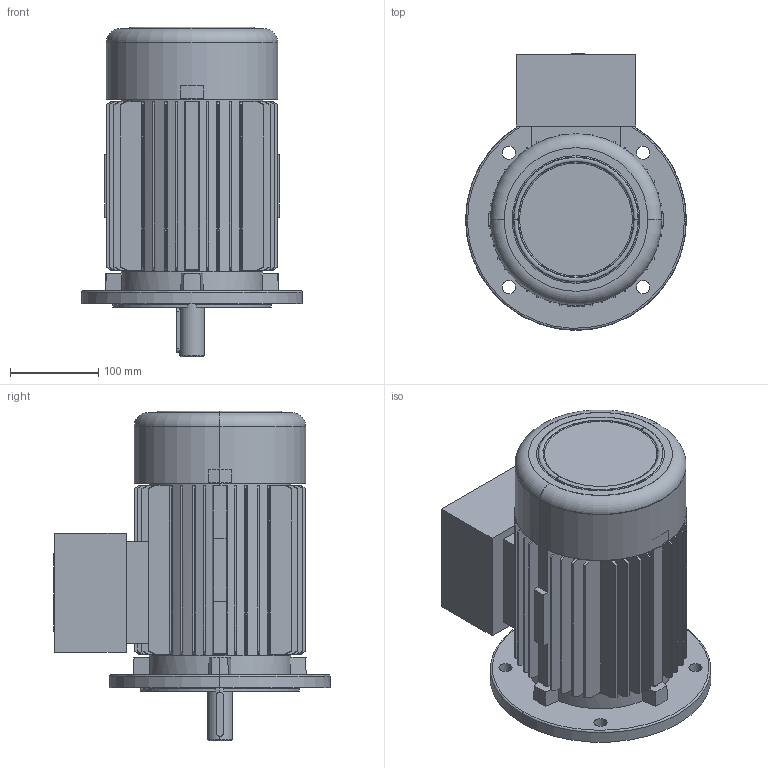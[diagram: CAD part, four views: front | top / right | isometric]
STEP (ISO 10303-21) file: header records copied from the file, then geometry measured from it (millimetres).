
FILE_DESCRIPTION (( 'STEP AP214' ), '1' );
FILE_NAME ('20.17500-B 5AT 100 B5 Exde STANDK.STEP', '2018-05-08T06:06:47', ( '' ), ( '' ), 'SwSTEP 2.0', 'SolidWorks 2017', '' );
FILE_SCHEMA (( 'AUTOMOTIVE_DESIGN' ));
Length unit declared in the file: millimetre
Products named in the file (1): 20.17500-B 5AT 100 B5 Exde STANDK
Bounding box: 249.9 x 312.95 x 372.94 mm (x, y, z)
Volume: 4933853.5 mm3; surface area: 899407.8 mm2
Topology: 4 solids, 14 shells, 763 faces, 1933 edges, 1251 vertices
Faces by surface type: plane 401, cylinder 170, cone 168, torus 16, bspline 8
Entity records: 24485 total; most frequent: CARTESIAN_POINT 6163, ORIENTED_EDGE 3814, DIRECTION 3758, EDGE_CURVE 1907, AXIS2_PLACEMENT_3D 1398, VERTEX_POINT 1251, LINE 962, VECTOR 962
